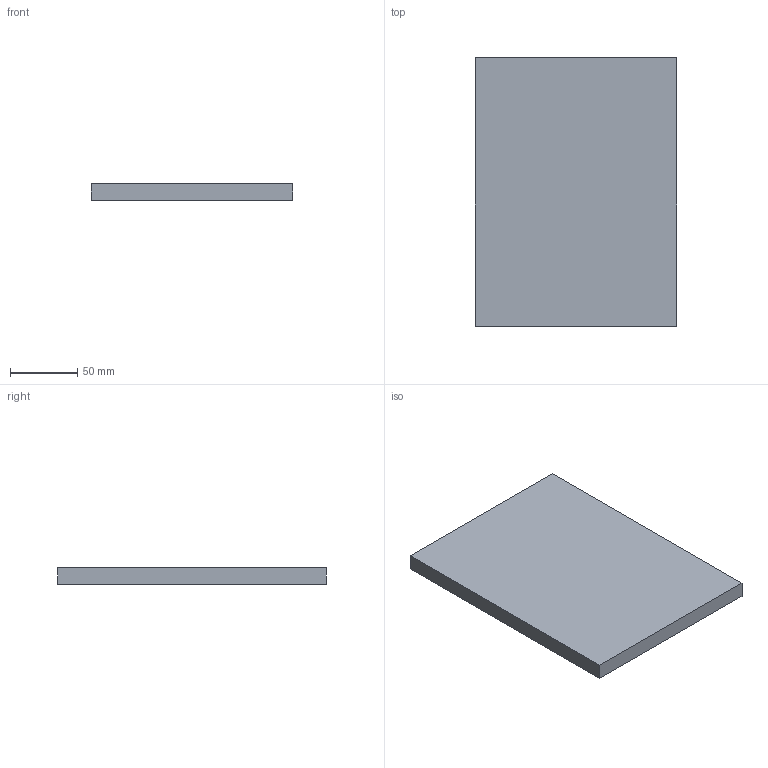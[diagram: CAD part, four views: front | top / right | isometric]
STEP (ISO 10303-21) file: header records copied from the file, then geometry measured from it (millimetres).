
FILE_DESCRIPTION(('Open CASCADE Model'),'2;1');
FILE_NAME('Open CASCADE Shape Model','2026-10-19T10:09:19',('Author'),( 'Open CASCADE'),'Open CASCADE STEP processor 8.0','Open CASCADE 8.0' ,'Unknown');
FILE_SCHEMA(('AUTOMOTIVE_DESIGN { 1 0 10303 214 1 1 1 1 }'));
Length unit declared in the file: millimetre
Products named in the file (1): U02_COLLAR_150x200x12_P05 30
Bounding box: 150 x 200 x 12 mm (x, y, z)
Volume: 360000 mm3; surface area: 68400 mm2
Topology: 1 solids, 1 shells, 6 faces, 12 edges, 8 vertices
Faces by surface type: plane 6
Entity records: 322 total; most frequent: CARTESIAN_POINT 51, DIRECTION 50, LINE 36, VECTOR 36, ORIENTED_EDGE 24, PCURVE 24, DEFINITIONAL_REPRESENTATION 24, EDGE_CURVE 12
